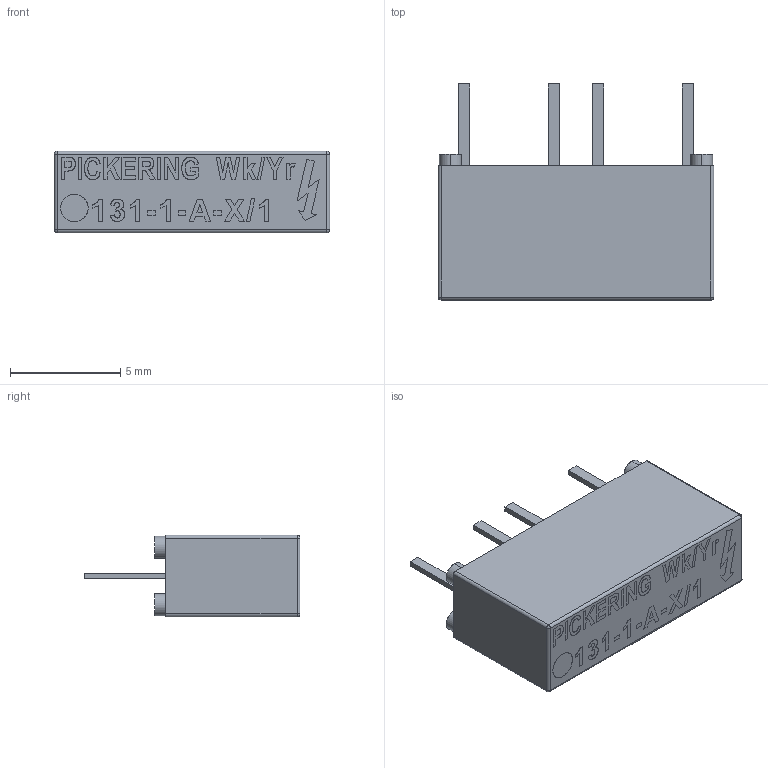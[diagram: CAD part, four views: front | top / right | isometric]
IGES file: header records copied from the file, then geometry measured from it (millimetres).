
Start section: SolidWorks IGES file using analytic representation for surfaces
Global section: file name: T:\ISO2\QMS\DESIGN & DEVELOPMENT\UK PRODUCT\Open Projects\DD031 131 Series\Models for website\131-1-A-X-1.IGS; native system: SolidWorks 2019; preprocessor: SolidWorks 2019; author: robert.king; date: 200213.161523; units: millimetre
Bounding box: 12.5 x 9.8 x 3.7 mm (x, y, z)
Surface area: 315.6 mm2 (no closed solid volume)
Topology: 0 solids, 0 shells, 326 faces, 2489 edges, 2485 vertices
Faces by surface type: bspline 304, revolution 22
